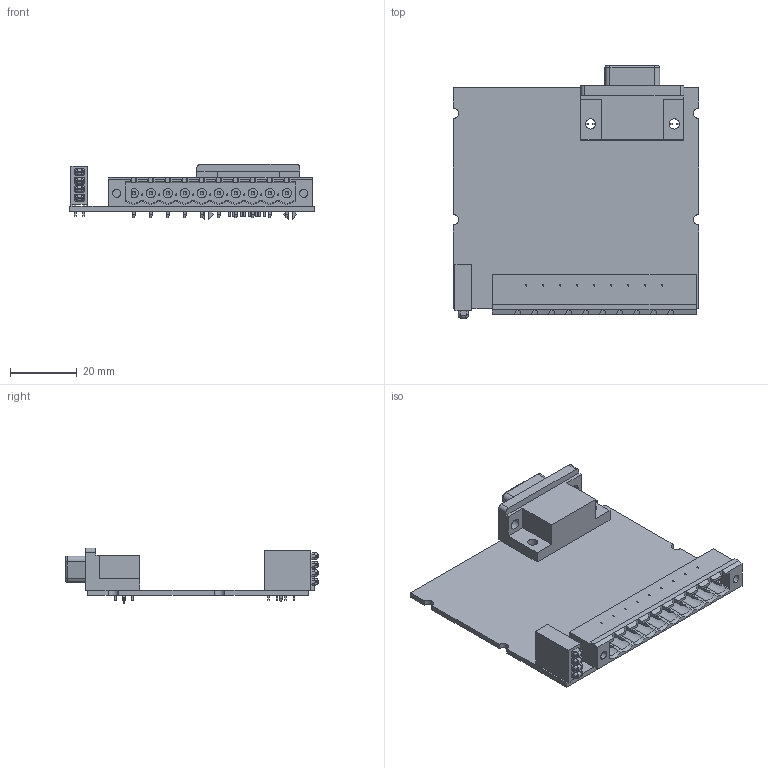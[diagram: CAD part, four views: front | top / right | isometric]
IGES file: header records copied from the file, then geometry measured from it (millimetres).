
Start section:  PTC IGES file: cd_10pos_screw_term_4leds.igs
Global section: file name: cd_10pos_screw_term_4leds.igs; native system: Pro/ENGINEER by Parametric Technology Corporation; preprocessor: 2006080; author: scarrasc; organization: Unknown; date: 100223.121802; units: inch
Bounding box: 73.38 x 75.51 x 16.61 mm (x, y, z)
Surface area: 15874.8 mm2 (no closed solid volume)
Topology: 0 solids, 0 shells, 941 faces, 4476 edges, 4476 vertices
Faces by surface type: bspline 697, revolution 244
